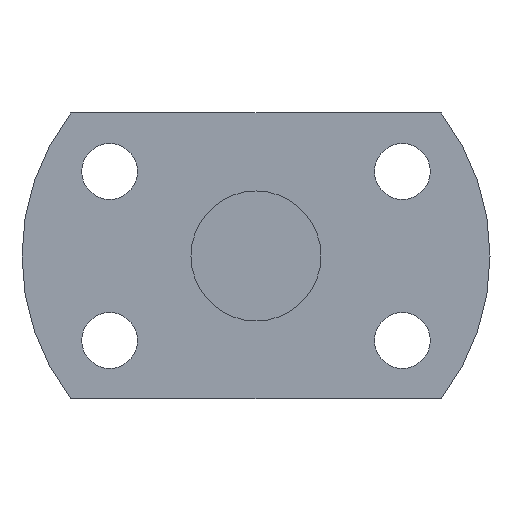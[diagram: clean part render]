
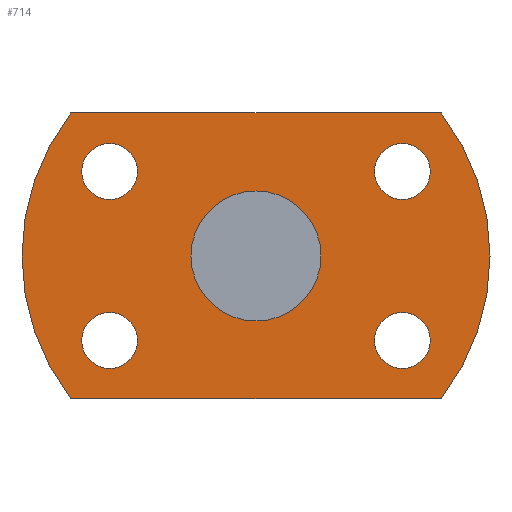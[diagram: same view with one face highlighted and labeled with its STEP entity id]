
A CAD part, left-side view. The second image highlights one B-rep face of the part: STEP entity #714.
In plain terms, the highlighted planar face has unit normal (-1, 0, 0).
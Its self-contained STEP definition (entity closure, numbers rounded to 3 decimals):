
#230=CARTESIAN_POINT('',(135.0,11.258,-4.35));
#231=VERTEX_POINT('',#230);
#232=CARTESIAN_POINT('',(135.0,11.258,-6.5));
#233=DIRECTION('',(1.0,0.0,0.0));
#234=DIRECTION('',(0.0,0.0,1.0));
#235=AXIS2_PLACEMENT_3D('',#232,#233,#234);
#236=CIRCLE('',#235,2.15);
#237=EDGE_CURVE('',#231,#231,#236,.T.);
#279=CARTESIAN_POINT('',(135.0,-11.258,8.65));
#280=VERTEX_POINT('',#279);
#281=CARTESIAN_POINT('',(135.0,-11.258,6.5));
#282=DIRECTION('',(1.0,0.0,0.0));
#283=DIRECTION('',(0.0,0.0,1.0));
#284=AXIS2_PLACEMENT_3D('',#281,#282,#283);
#285=CIRCLE('',#284,2.15);
#286=EDGE_CURVE('',#280,#280,#285,.T.);
#328=CARTESIAN_POINT('',(135.0,-11.258,-4.35));
#329=VERTEX_POINT('',#328);
#330=CARTESIAN_POINT('',(135.0,-11.258,-6.5));
#331=DIRECTION('',(1.0,0.0,0.0));
#332=DIRECTION('',(0.0,0.0,1.0));
#333=AXIS2_PLACEMENT_3D('',#330,#331,#332);
#334=CIRCLE('',#333,2.15);
#335=EDGE_CURVE('',#329,#329,#334,.T.);
#377=CARTESIAN_POINT('',(135.0,11.258,8.65));
#378=VERTEX_POINT('',#377);
#379=CARTESIAN_POINT('',(135.0,11.258,6.5));
#380=DIRECTION('',(1.0,0.0,0.0));
#381=DIRECTION('',(0.0,0.0,1.0));
#382=AXIS2_PLACEMENT_3D('',#379,#380,#381);
#383=CIRCLE('',#382,2.15);
#384=EDGE_CURVE('',#378,#378,#383,.T.);
#548=CARTESIAN_POINT('',(135.0,-14.248,-11.0));
#549=VERTEX_POINT('',#548);
#556=CARTESIAN_POINT('',(135.0,14.248,-11.0));
#557=VERTEX_POINT('',#556);
#558=CARTESIAN_POINT('',(135.0,14.248,-11.0));
#559=DIRECTION('',(0.0,-1.0,0.0));
#560=VECTOR('',#559,28.496);
#561=LINE('',#558,#560);
#562=EDGE_CURVE('',#557,#549,#561,.T.);
#579=CARTESIAN_POINT('',(135.0,-14.248,11.0));
#580=VERTEX_POINT('',#579);
#587=CARTESIAN_POINT('',(135.0,0.0,0.0));
#588=DIRECTION('',(-1.0,0.0,0.0));
#589=DIRECTION('',(0.0,0.0,1.0));
#590=AXIS2_PLACEMENT_3D('',#587,#588,#589);
#591=CIRCLE('',#590,18.0);
#592=EDGE_CURVE('',#549,#580,#591,.T.);
#604=CARTESIAN_POINT('',(135.0,14.248,11.0));
#605=VERTEX_POINT('',#604);
#612=CARTESIAN_POINT('',(135.0,-14.248,11.0));
#613=DIRECTION('',(0.0,1.0,0.0));
#614=VECTOR('',#613,28.496);
#615=LINE('',#612,#614);
#616=EDGE_CURVE('',#580,#605,#615,.T.);
#629=CARTESIAN_POINT('',(135.0,0.0,0.0));
#630=DIRECTION('',(-1.0,0.0,0.0));
#631=DIRECTION('',(0.0,0.0,1.0));
#632=AXIS2_PLACEMENT_3D('',#629,#630,#631);
#633=CIRCLE('',#632,18.0);
#634=EDGE_CURVE('',#605,#557,#633,.T.);
#680=CARTESIAN_POINT('',(135.0,0.0,7.5));
#681=DIRECTION('',(-1.0,0.0,0.0));
#682=DIRECTION('',(0.0,0.0,1.0));
#683=AXIS2_PLACEMENT_3D('',#680,#681,#682);
#684=PLANE('',#683);
#685=ORIENTED_EDGE('',*,*,#634,.T.);
#686=ORIENTED_EDGE('',*,*,#562,.T.);
#687=ORIENTED_EDGE('',*,*,#592,.T.);
#688=ORIENTED_EDGE('',*,*,#616,.T.);
#689=EDGE_LOOP('',(#685,#686,#687,#688));
#690=FACE_OUTER_BOUND('',#689,.T.);
#691=ORIENTED_EDGE('',*,*,#237,.T.);
#692=EDGE_LOOP('',(#691));
#693=FACE_BOUND('',#692,.T.);
#694=ORIENTED_EDGE('',*,*,#286,.T.);
#695=EDGE_LOOP('',(#694));
#696=FACE_BOUND('',#695,.T.);
#697=ORIENTED_EDGE('',*,*,#335,.T.);
#698=EDGE_LOOP('',(#697));
#699=FACE_BOUND('',#698,.T.);
#700=ORIENTED_EDGE('',*,*,#384,.T.);
#701=EDGE_LOOP('',(#700));
#702=FACE_BOUND('',#701,.T.);
#703=CARTESIAN_POINT('',(135.0,0.0,5.0));
#704=VERTEX_POINT('',#703);
#705=CARTESIAN_POINT('',(135.0,0.0,0.0));
#706=DIRECTION('',(-1.0,0.0,0.0));
#707=DIRECTION('',(0.0,0.0,1.0));
#708=AXIS2_PLACEMENT_3D('',#705,#706,#707);
#709=CIRCLE('',#708,5.0);
#710=EDGE_CURVE('',#704,#704,#709,.T.);
#711=ORIENTED_EDGE('',*,*,#710,.F.);
#712=EDGE_LOOP('',(#711));
#713=FACE_BOUND('',#712,.T.);
#714=ADVANCED_FACE('',(#690,#693,#696,#699,#702,#713),#684,.T.);
